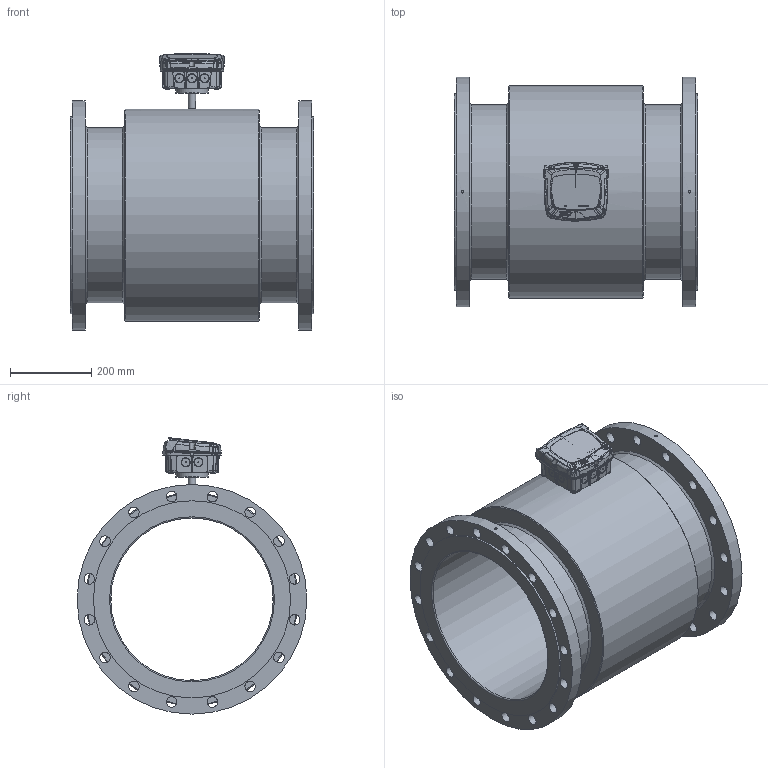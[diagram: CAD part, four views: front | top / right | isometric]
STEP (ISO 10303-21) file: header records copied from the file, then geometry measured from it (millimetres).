
FILE_DESCRIPTION((''),'2;1');
FILE_NAME('C:\Users\Claus\Dropbox\Projects 2011 - 2012\MJK Automation AS\DN 400 - DIN EN-1095-1.stp','2014-10-24T15:12:46',('Claus'),(''),'Autodesk Inventor 2013','Autodesk Inventor 2013','');
FILE_SCHEMA(('AUTOMOTIVE_DESIGN { 1 0 10303 214 1 1 1 1 }'));
Length unit declared in the file: millimetre
Products named in the file (7): DN 400 - DIN EN-1095-1; FC_MagFlux_assembly_r1; CH Bund ml; FC Top rev 06.04; CH 03.02; Electrode group DN15 - DN32
Assembly tree (8 placements, depth 3):
  DN 400 - DIN EN-1095-1
    DN 400 - DIN EN-1095-1
    FC_MagFlux_assembly_r1
      CH Bund ml
      FC Top rev 06.04
      CH 03.02
    Electrode group DN15 - DN32  x3
Bounding box: 600 x 565 x 679.84 mm (x, y, z)
Volume: 41606255.1 mm3; surface area: 2568228.4 mm2
Topology: 10 solids, 10 shells, 2951 faces, 8042 edges, 5235 vertices
Faces by surface type: bspline 1752, plane 810, cylinder 226, cone 123, torus 25, revolution 9, sphere 6
Full cylindrical faces by diameter (mm): 2.5 x3, 3 x6, 4 x1, 6 x2, 6.5 x4, 7.042 x4, 8 x3, 8.048 x4, 12.072 x4, 15 x1, 18 x1, 18.108 x1, 26 x32, 64 x1, 400 x1, 430 x2, 485 x2, 522 x1, 565 x2
Entity records: 234610 total; most frequent: CARTESIAN_POINT 171650, ORIENTED_EDGE 15560, DIRECTION 7853, EDGE_CURVE 7780, VERTEX_POINT 5173, EDGE_LOOP 3337, VECTOR 3112, LINE 3112
